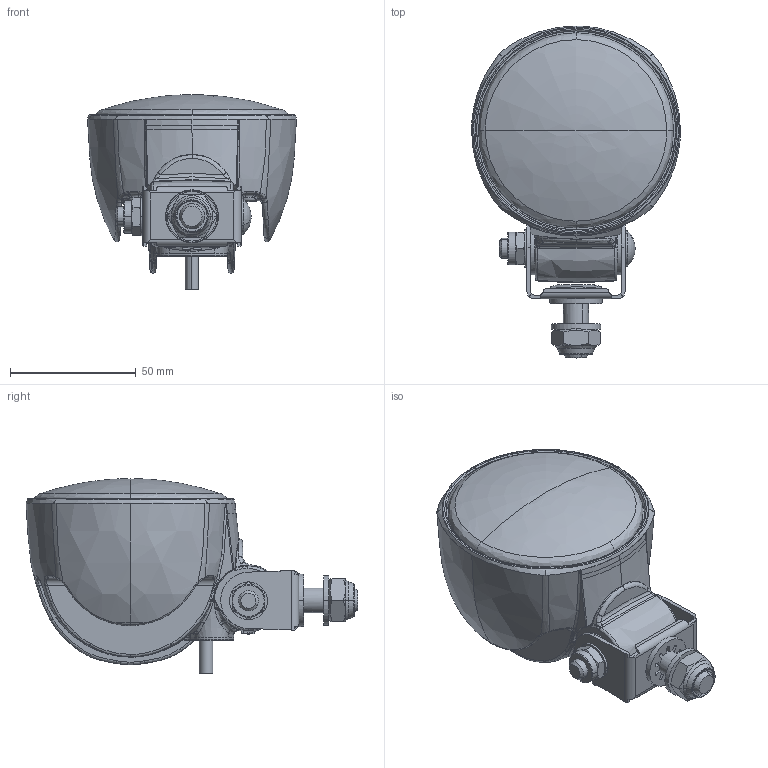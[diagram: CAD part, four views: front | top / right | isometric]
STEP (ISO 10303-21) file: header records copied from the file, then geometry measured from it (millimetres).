
FILE_DESCRIPTION(('CATIA V5 STEP Exchange','CAx-IF Rec.Pracs.--- Model Styling and Organization---1.5--- 2016-08-15','CAx-IF Rec.Pracs.---Supplemental Geometry---1.0---2011-11-01','CAx-IF Rec.Pracs.--- Composite Materials ---1.1---2010-07-15'),'2;1');
FILE_NAME('E:\tmp\ddx\2011218\HELLA_3D_data_Module_70_LED_Gen_4_upright_pendant_mounting_1G0-996-476-00.stp','2022-01-18T07:31:32+00:00',('none'),('none'),'CATIA Version 5-6 Release 2020 SP3 HF9','CATIA V5 STEP AP214 Edition 3 v2','none');
FILE_SCHEMA(('AUTOMOTIVE_DESIGN { 1 0 10303 214 3 1 1 1 }'));
Products named in the file (1): 10001243793_D10_001
Bounding box: 83.01 x 131.85 x 77.36 mm (x, y, z)
Volume: 259548 mm3; surface area: 47181.7 mm2
Topology: 2 solids, 3 shells, 1059 faces, 2643 edges, 1559 vertices
Faces by surface type: bspline 513, plane 193, cylinder 135, cone 109, torus 87, sphere 20, extrusion 2
Entity records: 56959 total; most frequent: CARTESIAN_POINT 37360, ORIENTED_EDGE 5210, EDGE_CURVE 2605, DIRECTION 1909, VERTEX_POINT 1559, B_SPLINE_CURVE_WITH_KNOTS 1526, EDGE_LOOP 1098, ADVANCED_FACE 1059
